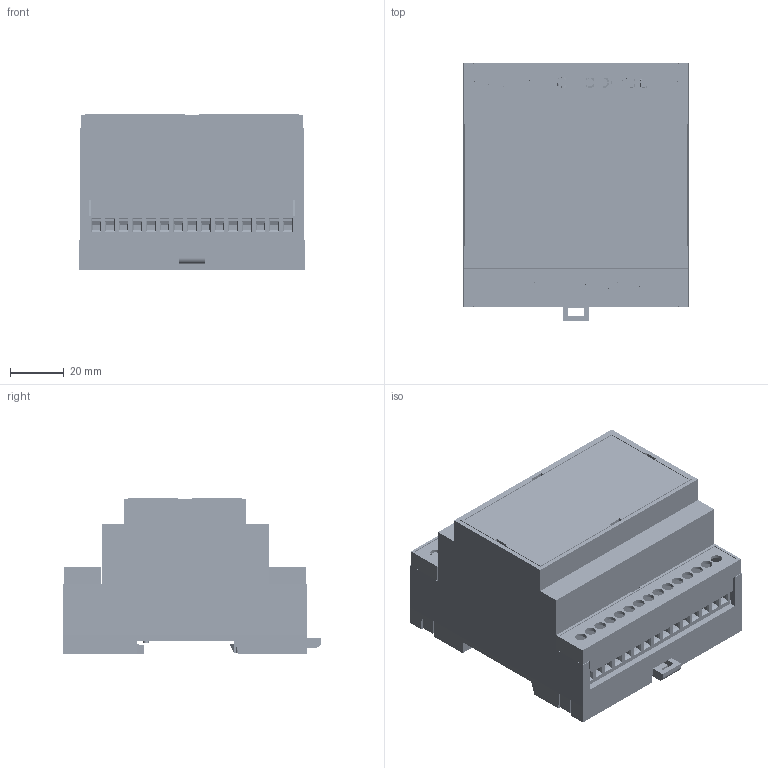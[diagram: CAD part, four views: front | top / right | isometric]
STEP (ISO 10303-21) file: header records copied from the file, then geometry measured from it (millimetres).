
FILE_DESCRIPTION(('KiCad electronic assembly'),'2;1');
FILE_NAME('______.step','2025-06-17T20:03:19',('Pcbnew'),('Kicad'), 'Open CASCADE STEP processor 7.8','KiCad to STEP converter','Unknown' );
FILE_SCHEMA(('AUTOMOTIVE_DESIGN { 1 0 10303 214 1 1 1 1 }'));
Length unit declared in the file: millimetre
Products named in the file (211): ______ 1; C_0603_1608Metric; R_1206_3216Metric; SOT-23; R_0603_1608Metric; SOIC-8_5.3x5.3mm_P1.27mm; LED_0805_2012Metric; SW_SPST_CK_RS282G05A3; D_SMA; User Library-HR911105A; D_MELF; SOIC-16_3.9x9.9mm_P1.27mm; ESP32-WROOM-32E; Fuse_1210_3225Metric; SDR0603; SOLID; COMPOUND; Relay_DPDT_Schrack-RT2-FormC_RM5mm; LAN8720A-CP--3DModel-STEP-269445; TerminalBlock_Phoenix_MKDS-1,5-2-5.08_1x02_P5.08mm_Horizontal; BatteryHolder_LINX_BAT-HLD-012-SMT; User Library-CR1225; refine_Revolution001; Cut003; refine_Cut001; TerminalBlock_Phoenix_MKDS-1,5-15-5.08_1x15_P5.08mm_Horizontal; D5MG-open; D5MG-BODY; D5MG-BASE; D5MG-COVER; D5MG-GUARD; D5MG-GUARD001; D5MG-WALL CLIP; NetworkClickerE015 1; C_0603_1608Metric001; C_0603_1608Metric002; C_0603_1608Metric003; C_0603_1608Metric004; C_0603_1608Metric005; C_0603_1608Metric006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
Assembly tree (301 placements, depth 6):
  ______ 1
    C_0603_1608Metric  x18
    R_1206_3216Metric
    SOT-23  x7
    R_0603_1608Metric  x47
    SOIC-8_5.3x5.3mm_P1.27mm
    LED_0805_2012Metric  x6
    SW_SPST_CK_RS282G05A3  x2
    D_SMA  x6
    User Library-HR911105A
    D_MELF
    SOIC-16_3.9x9.9mm_P1.27mm  x2
    ESP32-WROOM-32E
    Fuse_1210_3225Metric
    SDR0603
      SOLID
      COMPOUND
    Relay_DPDT_Schrack-RT2-FormC_RM5mm  x5
    LAN8720A-CP--3DModel-STEP-269445
    TerminalBlock_Phoenix_MKDS-1,5-2-5.08_1x02_P5.08mm_Horizontal
    BatteryHolder_LINX_BAT-HLD-012-SMT
    User Library-CR1225
      refine_Revolution001
      Cut003
      refine_Cut001
    TerminalBlock_Phoenix_MKDS-1,5-15-5.08_1x15_P5.08mm_Horizontal
    D5MG-open
      D5MG-BODY
      D5MG-BASE
      D5MG-COVER
      D5MG-GUARD
      D5MG-GUARD001
      D5MG-WALL CLIP
      NetworkClickerE015 1
        C_0603_1608Metric
        C_0603_1608Metric001
        C_0603_1608Metric002
        C_0603_1608Metric003
        C_0603_1608Metric004
        C_0603_1608Metric005
        C_0603_1608Metric006
        C_0603_1608Metric007
        C_0603_1608Metric008
        C_0603_1608Metric009
        C_0603_1608Metric010
        C_0603_1608Metric011
        C_0603_1608Metric012
        C_0603_1608Metric013
        C_0603_1608Metric014
        C_0603_1608Metric015
        C_0603_1608Metric016
        C_0603_1608Metric017
        R_1206_3216Metric
        SOT-23
        SOT-024
        SOT-025
        SOT-026
        SOT-027
        SOT-028
        SOT-029
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Bounding box: 83.6 x 95.8 x 58 mm (x, y, z)
Volume: 167511 mm3; surface area: 177981 mm2
Topology: 336 solids, 984 shells, 20172 faces, 60951 edges, 42507 vertices
Faces by surface type: plane 14635, cylinder 3705, bspline 1539, torus 133, sphere 88, cone 70, revolution 2
Full cylindrical faces by diameter (mm): 0.2 x42, 0.35 x2, 0.5 x4, 0.55 x4, 0.6 x6, 0.66 x2, 0.7 x8, 0.8 x8, 0.89 x16, 1 x4, 1.02 x8, 1.3 x114, 1.63 x4, 2.1 x4, 2.12 x2, 2.2 x4, 3 x6, 3.25 x4, 3.8 x34, 4 x34, 4.3 x30, 5.8 x4, 9.2 x2, 10.2 x2, 12.4 x1
Entity records: 733713 total; most frequent: CARTESIAN_POINT 173736, ORIENTED_EDGE 95408, DIRECTION 90298, EDGE_CURVE 52172, LINE 40180, VECTOR 40180, VERTEX_POINT 36929, AXIS2_PLACEMENT_3D 25058
